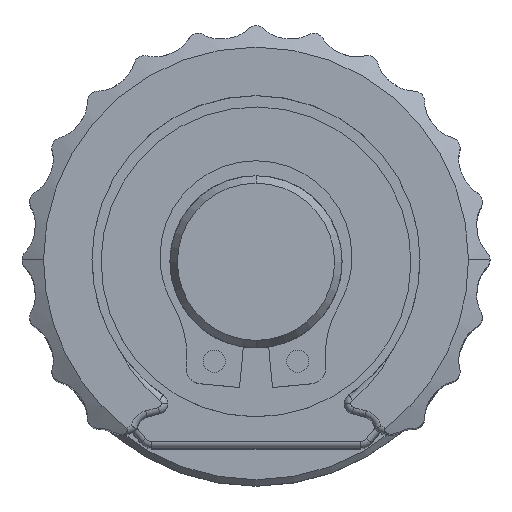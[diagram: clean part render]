
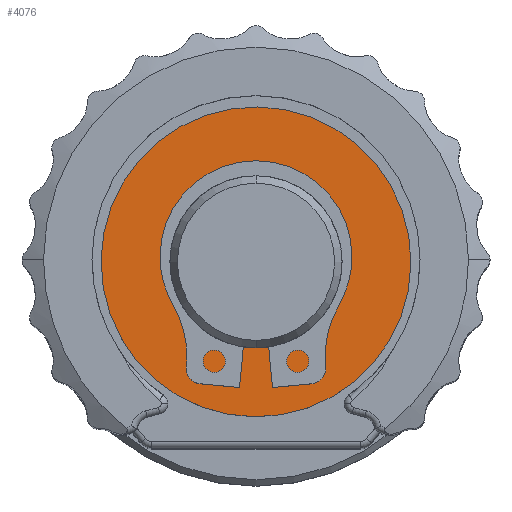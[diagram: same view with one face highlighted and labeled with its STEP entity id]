
A CAD part, top view. The second image highlights one B-rep face of the part: STEP entity #4076.
In plain terms, the highlighted planar face has unit normal (0, 0, 1).
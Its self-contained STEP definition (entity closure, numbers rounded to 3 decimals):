
#914 = CIRCLE ( 'NONE', #4697, 4. ) ;
#1079 = EDGE_LOOP ( 'NONE', ( #16433, #18676 ) ) ;
#1351 = CIRCLE ( 'NONE', #10335, 7.2 ) ;
#1397 = DIRECTION ( 'NONE',  ( 1., 0., 0. ) ) ;
#1443 = CARTESIAN_POINT ( 'NONE',  ( 0., -0.1, -2.1 ) ) ;
#2366 = EDGE_CURVE ( 'NONE', #14526, #10968, #15321, .T. ) ;
#2835 = DIRECTION ( 'NONE',  ( 0., 0., 1. ) ) ;
#3005 = CARTESIAN_POINT ( 'NONE',  ( 0., -4.1, -2.1 ) ) ;
#3478 = DIRECTION ( 'NONE',  ( 0., 0., 1. ) ) ;
#3692 = AXIS2_PLACEMENT_3D ( 'NONE', #1443, #2835, #6956 ) ;
#4076 = ADVANCED_FACE ( 'NONE', ( #19717, #6943 ), #15817, .T. ) ;
#4251 = DIRECTION ( 'NONE',  ( 0., 0., -1. ) ) ;
#4697 = AXIS2_PLACEMENT_3D ( 'NONE', #21350, #11350, #1397 ) ;
#5348 = EDGE_LOOP ( 'NONE', ( #20488, #14427 ) ) ;
#5778 = CARTESIAN_POINT ( 'NONE',  ( 6.74, -2.632, -2.1 ) ) ;
#6943 = FACE_OUTER_BOUND ( 'NONE', #5348, .T. ) ;
#6956 = DIRECTION ( 'NONE',  ( 1., 0., 0. ) ) ;
#7099 = CARTESIAN_POINT ( 'NONE',  ( 1.417, 3.673, -2.1 ) ) ;
#7332 = CARTESIAN_POINT ( 'NONE',  ( 0., -0.1, -2.1 ) ) ;
#8987 = DIRECTION ( 'NONE',  ( -0.936, 0.352, 0. ) ) ;
#9550 = AXIS2_PLACEMENT_3D ( 'NONE', #7332, #18991, #8987 ) ;
#10229 = EDGE_CURVE ( 'NONE', #10968, #14526, #914, .T. ) ;
#10335 = AXIS2_PLACEMENT_3D ( 'NONE', #14208, #4251, #15877 ) ;
#10453 = VERTEX_POINT ( 'NONE', #5778 ) ;
#10756 = CARTESIAN_POINT ( 'NONE',  ( 0., 3.9, -2.1 ) ) ;
#10968 = VERTEX_POINT ( 'NONE', #10756 ) ;
#11350 = DIRECTION ( 'NONE',  ( 0., 0., 1. ) ) ;
#11687 = DIRECTION ( 'NONE',  ( 0.936, -0.352, 0. ) ) ;
#12849 = EDGE_CURVE ( 'NONE', #10453, #19741, #1351, .T. ) ;
#14207 = CIRCLE ( 'NONE', #9550, 7.2 ) ;
#14208 = CARTESIAN_POINT ( 'NONE',  ( 0., -0.1, -2.1 ) ) ;
#14427 = ORIENTED_EDGE ( 'NONE', *, *, #12849, .F. ) ;
#14526 = VERTEX_POINT ( 'NONE', #3005 ) ;
#15321 = CIRCLE ( 'NONE', #3692, 4. ) ;
#15817 = PLANE ( 'NONE',  #16101 ) ;
#15877 = DIRECTION ( 'NONE',  ( -0.936, 0.352, 0. ) ) ;
#16101 = AXIS2_PLACEMENT_3D ( 'NONE', #7099, #3478, #11687 ) ;
#16433 = ORIENTED_EDGE ( 'NONE', *, *, #2366, .F. ) ;
#18625 = EDGE_CURVE ( 'NONE', #19741, #10453, #14207, .T. ) ;
#18676 = ORIENTED_EDGE ( 'NONE', *, *, #10229, .F. ) ;
#18991 = DIRECTION ( 'NONE',  ( 0., 0., -1. ) ) ;
#19717 = FACE_BOUND ( 'NONE', #1079, .T. ) ;
#19741 = VERTEX_POINT ( 'NONE', #20679 ) ;
#20488 = ORIENTED_EDGE ( 'NONE', *, *, #18625, .F. ) ;
#20679 = CARTESIAN_POINT ( 'NONE',  ( -6.74, 2.432, -2.1 ) ) ;
#21350 = CARTESIAN_POINT ( 'NONE',  ( 0., -0.1, -2.1 ) ) ;
